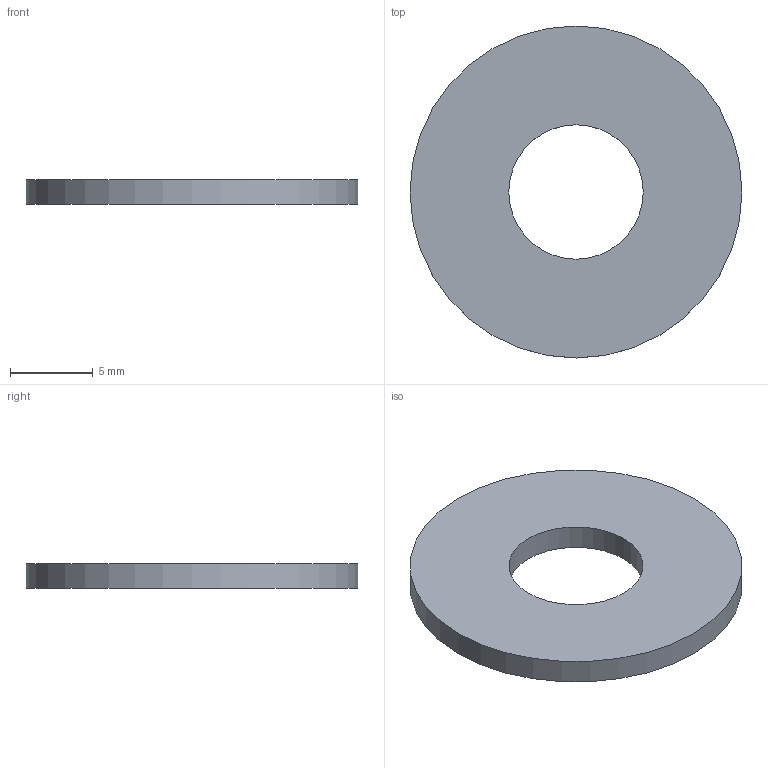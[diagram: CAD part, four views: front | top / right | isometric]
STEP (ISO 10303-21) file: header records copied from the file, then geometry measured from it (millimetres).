
FILE_DESCRIPTION(/* description */ ('Reducing sleeve top'),/* implementation_level */ '2;1');
FILE_NAME(/* name */ 'ITPTv2.01.00.37.stp',/* time_stamp */ '2025-02-12T11:23:37+01:00',/* author */ ('Rüdiger Widera'),/* organization */ (''),/* preprocessor_version */ 'ST-DEVELOPER v19.2',/* originating_system */ 'Autodesk Inventor 2024',/* authorisation */ '');
FILE_SCHEMA (('AUTOMOTIVE_DESIGN { 1 0 10303 214 3 1 1 }'));
Length unit declared in the file: millimetre
Products named in the file (1): ITPTv2.01.00.37
Bounding box: 20 x 20 x 1.5 mm (x, y, z)
Volume: 393.9 mm3; surface area: 657.7 mm2
Topology: 1 solids, 1 shells, 4 faces, 6 edges, 4 vertices
Faces by surface type: cylinder 2, plane 2
Full cylindrical faces by diameter (mm): 8.1 x1, 20 x1
Entity records: 141 total; most frequent: DIRECTION 20, CARTESIAN_POINT 15, ORIENTED_EDGE 12, AXIS2_PLACEMENT_3D 9, EDGE_LOOP 6, EDGE_CURVE 6, FACE_OUTER_BOUND 4, CIRCLE 4
